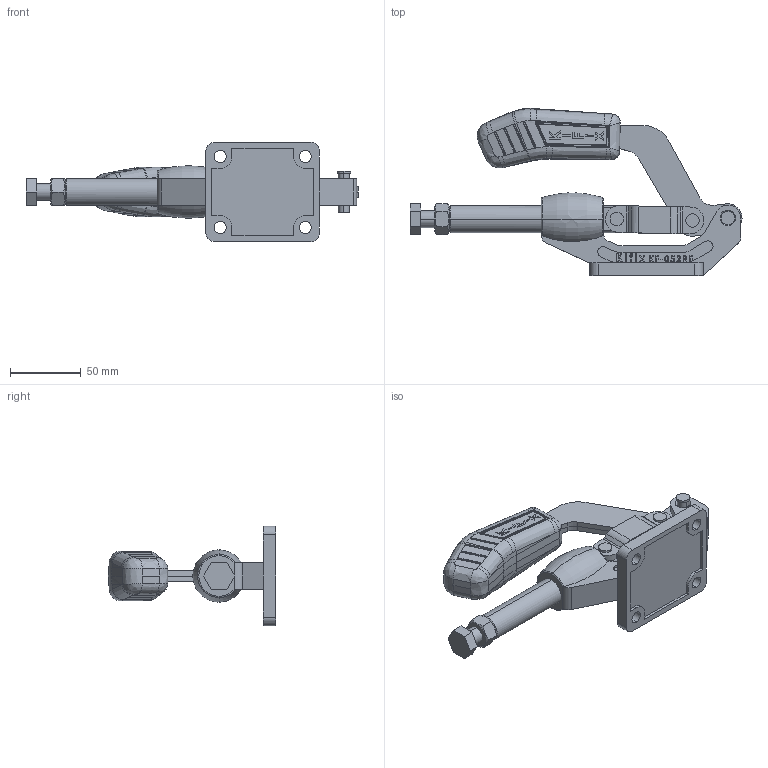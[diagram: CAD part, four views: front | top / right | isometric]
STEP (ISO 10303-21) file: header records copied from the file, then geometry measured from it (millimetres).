
FILE_DESCRIPTION (( 'STEP AP203' ), '1' );
FILE_NAME ('KF-052 RF.STEP', '2018-10-23T18:26:07', ( 'Ricardo' ), ( '' ), 'SwSTEP 2.0', 'SolidWorks 2018', '' );
FILE_SCHEMA (( 'CONFIG_CONTROL_DESIGN' ));
Length unit declared in the file: millimetre
Products named in the file (10): KF-052 RF; 01.10035; 03.20039; 08.10043; 06.50026; 07.60002; 11.50004; 12.50022; PP-M12; 02.30010
Assembly tree (13 placements, depth 3):
  KF-052 RF
    02.30010
    01.10035  x2
    03.20039
    08.10043  x2
    06.50026  x3
    07.60002
    PP-M12
      11.50004
      12.50022
Bounding box: 234.07 x 117.85 x 70 mm (x, y, z)
Volume: 272379.7 mm3; surface area: 89363.5 mm2
Topology: 12 solids, 12 shells, 1090 faces, 2848 edges, 1828 vertices
Faces by surface type: plane 439, bspline 397, cylinder 170, sphere 52, cone 22, torus 10
Entity records: 45641 total; most frequent: CARTESIAN_POINT 22450, ORIENTED_EDGE 5314, DIRECTION 3332, EDGE_CURVE 2657, VERTEX_POINT 1718, VECTOR 1246, LINE 1246, EDGE_LOOP 1099
